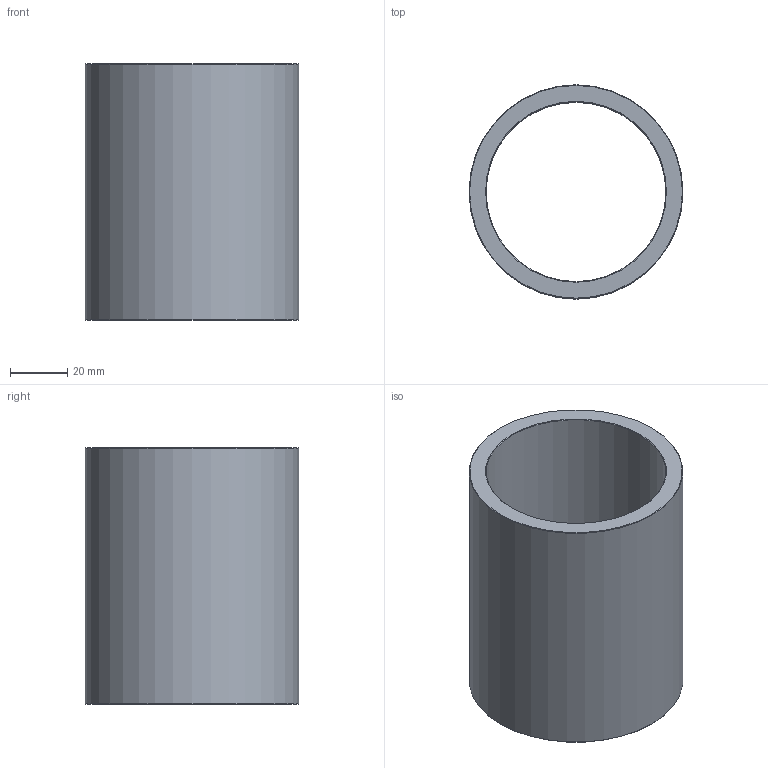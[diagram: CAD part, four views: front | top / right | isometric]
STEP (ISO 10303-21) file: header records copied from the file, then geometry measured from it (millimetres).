
FILE_DESCRIPTION(('STEP AP203'),'1');
FILE_NAME('C:/Users/Rodrigo/Desktop/GA6.063.090-1.step','2016-11-08T14:35:06',(' '),(' '),'Spatial InterOp 3D',' ',' ');
FILE_SCHEMA(('CONFIG_CONTROL_DESIGN'));
Length unit declared in the file: millimetre
Products named in the file (1): 1
Bounding box: 75 x 75 x 90 mm (x, y, z)
Volume: 117038.4 mm3; surface area: 41518.2 mm2
Topology: 1 solids, 1 shells, 8 faces, 14 edges, 8 vertices
Faces by surface type: cone 4, cylinder 2, plane 2
Full cylindrical faces by diameter (mm): 63 x1, 75 x1
Entity records: 212 total; most frequent: DIRECTION 34, CARTESIAN_POINT 25, AXIS2_PLACEMENT_3D 17, EDGE_LOOP 16, ORIENTED_EDGE 16, FACE_OUTER_BOUND 10, ADVANCED_FACE 8, EDGE_CURVE 8
